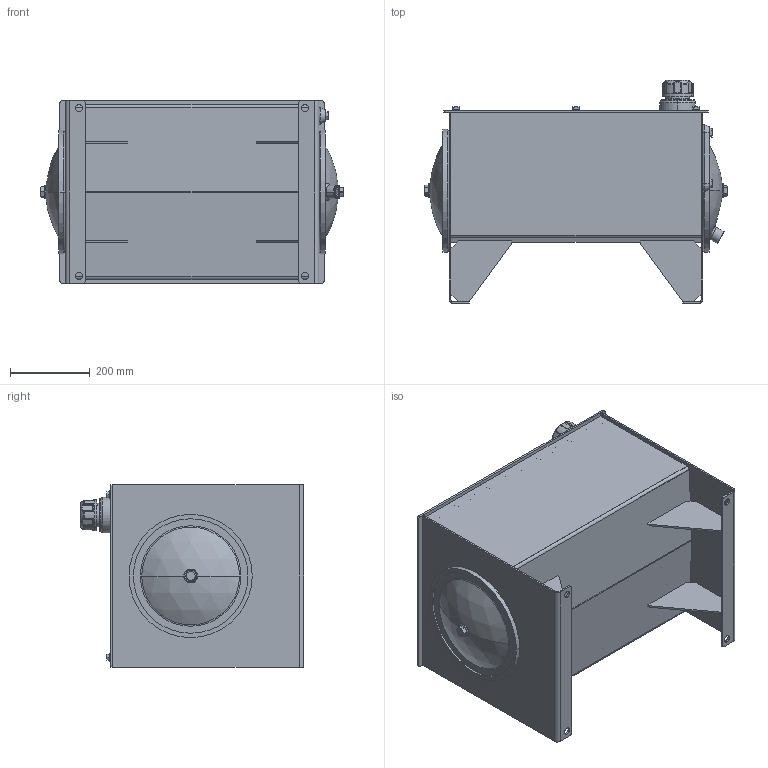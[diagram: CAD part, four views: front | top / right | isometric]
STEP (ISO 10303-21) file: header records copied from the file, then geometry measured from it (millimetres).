
FILE_DESCRIPTION (( 'STEP AP203' ), '1' );
FILE_NAME ('RJIC015-RT.STEP', '2015-01-08T15:47:30', ( '' ), ( '' ), 'SwSTEP 2.0', 'SolidWorks 2014', '' );
FILE_SCHEMA (( 'CONFIG_CONTROL_DESIGN' ));
Length unit declared in the file: inch
Products named in the file (1): RJIC015-RT
Bounding box: 756.19 x 558.16 x 457.2 mm (x, y, z)
Volume: 7593813.3 mm3; surface area: 3952540.8 mm2
Topology: 38 solids, 38 shells, 939 faces, 2169 edges, 1321 vertices
Faces by surface type: plane 336, cylinder 328, torus 96, cone 96, bspline 51, sphere 32
Entity records: 29670 total; most frequent: CARTESIAN_POINT 7884, DIRECTION 4804, ORIENTED_EDGE 4314, EDGE_CURVE 2157, AXIS2_PLACEMENT_3D 1911, VERTEX_POINT 1321, EDGE_LOOP 1084, CIRCLE 1022
